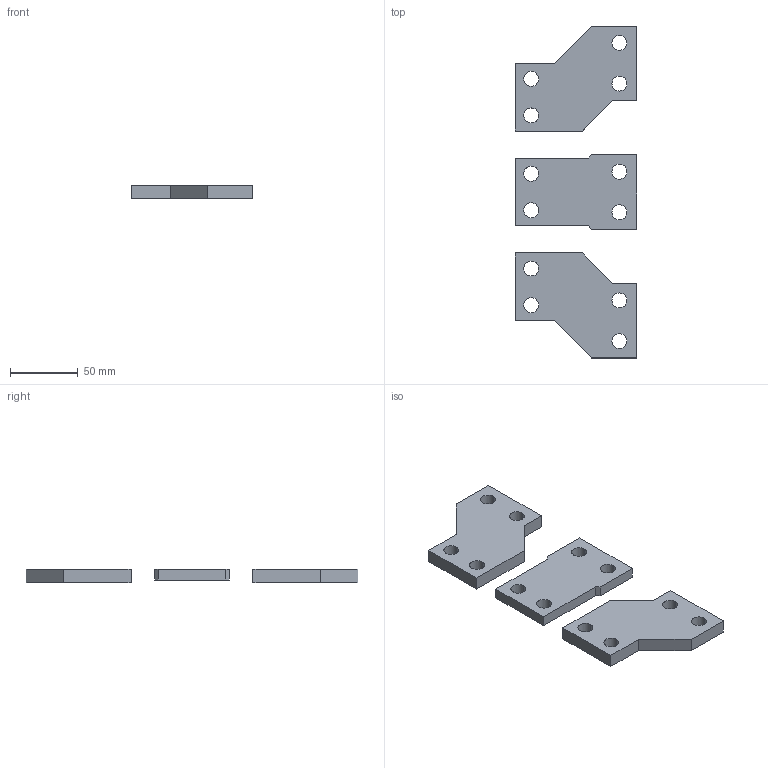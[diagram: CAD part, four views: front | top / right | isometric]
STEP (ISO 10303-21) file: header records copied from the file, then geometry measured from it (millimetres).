
FILE_DESCRIPTION (( 'STEP AP214' ), '1' );
FILE_NAME ('TGM1NE-1600-3P ïðÿìàÿ + 2 èçîãíóòûå.STEP', '2026-05-21T12:04:07', ( '' ), ( '' ), 'SwSTEP 2.0', 'SolidWorks 2024', '' );
FILE_SCHEMA (( 'AUTOMOTIVE_DESIGN' ));
Length unit declared in the file: millimetre
Products named in the file (3): TGM1NE-1600-3P прямая + 2 изогнутые; TGM1NE-1600-прямые шины.stp; TGM1NE-1600-изогнутые шины
Assembly tree (3 placements, depth 2):
  TGM1NE-1600-3P прямая + 2 изогнутые
    TGM1NE-1600-прямые шины.stp
    TGM1NE-1600-изогнутые шины  x2
Bounding box: 90 x 245 x 10 mm (x, y, z)
Volume: 129666.1 mm3; surface area: 39931.9 mm2
Topology: 3 solids, 3 shells, 54 faces, 144 edges, 96 vertices
Faces by surface type: plane 30, cylinder 24
Entity records: 1260 total; most frequent: DIRECTION 212, CARTESIAN_POINT 202, ORIENTED_EDGE 192, EDGE_CURVE 96, AXIS2_PLACEMENT_3D 74, LINE 64, VECTOR 64, VERTEX_POINT 64
